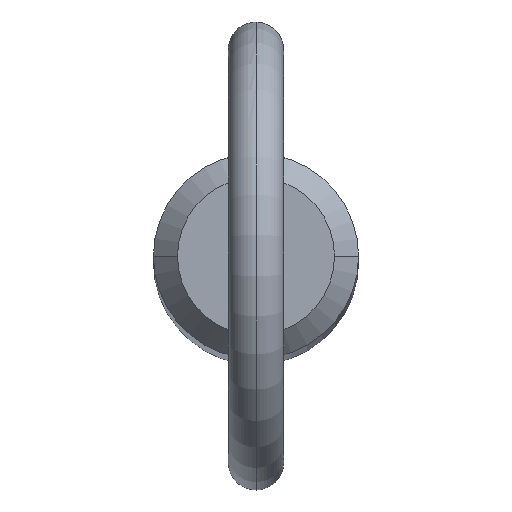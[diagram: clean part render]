
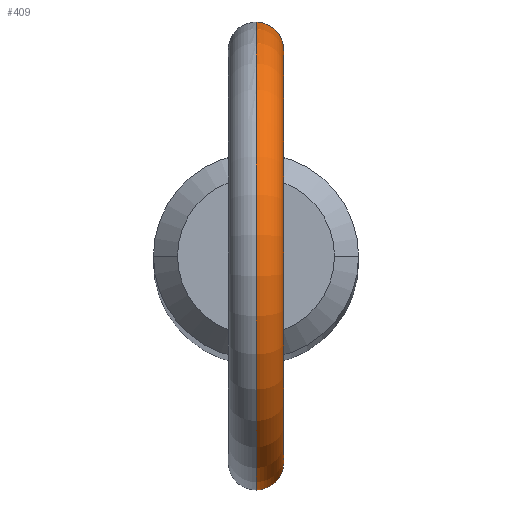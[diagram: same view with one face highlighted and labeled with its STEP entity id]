
A CAD part, top view. The second image highlights one B-rep face of the part: STEP entity #409.
In plain terms, the highlighted toroidal (fillet/blend) face has major radius 11.2 mm and minor radius 1.5 mm.
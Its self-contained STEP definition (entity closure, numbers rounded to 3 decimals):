
#4 = CARTESIAN_POINT ( 'NONE',  ( 1.26, -5.407, 167.043 ) ) ;
#15 = EDGE_CURVE ( 'NONE', #344, #298, #201, .T. ) ;
#22 = DIRECTION ( 'NONE',  ( 1., 0., 0. ) ) ;
#29 = ORIENTED_EDGE ( 'NONE', *, *, #278, .F. ) ;
#32 = CARTESIAN_POINT ( 'NONE',  ( 0.417, -5.535, 169.767 ) ) ;
#39 = CARTESIAN_POINT ( 'NONE',  ( 1.055, -5.449, 166.805 ) ) ;
#57 = CARTESIAN_POINT ( 'NONE',  ( 0.213, 5.55, 169.845 ) ) ;
#73 = AXIS2_PLACEMENT_3D ( 'NONE', #483, #142, #223 ) ;
#82 = CARTESIAN_POINT ( 'NONE',  ( 0.523, -5.526, 166.466 ) ) ;
#96 = CARTESIAN_POINT ( 'NONE',  ( 1.486, 5.348, 167.638 ) ) ;
#98 = DIRECTION ( 'NONE',  ( 0., 0., -1. ) ) ;
#101 = CARTESIAN_POINT ( 'NONE',  ( 0.422, 5.537, 169.778 ) ) ;
#114 = CARTESIAN_POINT ( 'NONE',  ( 0., -5.55, 169.845 ) ) ;
#115 = CARTESIAN_POINT ( 'NONE',  ( 1.44, -5.36, 168.486 ) ) ;
#122 = CARTESIAN_POINT ( 'NONE',  ( 1.363, -5.38, 167.234 ) ) ;
#124 = VERTEX_POINT ( 'NONE', #194 ) ;
#132 = CARTESIAN_POINT ( 'NONE',  ( 0.107, 5.55, 166.377 ) ) ;
#142 = DIRECTION ( 'NONE',  ( 1., 0., 0. ) ) ;
#162 = CARTESIAN_POINT ( 'NONE',  ( 0., 5.55, 166.377 ) ) ;
#166 = CARTESIAN_POINT ( 'NONE',  ( 0., 0., 177.8 ) ) ;
#178 = CARTESIAN_POINT ( 'NONE',  ( 0.694, 5.507, 169.614 ) ) ;
#184 = FACE_OUTER_BOUND ( 'NONE', #306, .T. ) ;
#194 = CARTESIAN_POINT ( 'NONE',  ( 0., 5.55, 169.845 ) ) ;
#197 = CARTESIAN_POINT ( 'NONE',  ( 0.107, -5.55, 166.377 ) ) ;
#200 = CARTESIAN_POINT ( 'NONE',  ( 0.807, -5.492, 166.606 ) ) ;
#201 = CIRCLE ( 'NONE', #73, 12.7 ) ;
#206 = CARTESIAN_POINT ( 'NONE',  ( 0., 5.55, 166.377 ) ) ;
#208 = CARTESIAN_POINT ( 'NONE',  ( 0.984, 5.464, 166.724 ) ) ;
#210 = EDGE_CURVE ( 'NONE', #124, #384, #245, .T. ) ;
#213 = CARTESIAN_POINT ( 'NONE',  ( 1.294, 5.398, 168.885 ) ) ;
#215 = CARTESIAN_POINT ( 'NONE',  ( 1.003, 5.459, 169.325 ) ) ;
#217 = CARTESIAN_POINT ( 'NONE',  ( 1.44, 5.36, 168.488 ) ) ;
#223 = DIRECTION ( 'NONE',  ( 0., 0., -1. ) ) ;
#245 = CIRCLE ( 'NONE', #486, 9.7 ) ;
#248 = CARTESIAN_POINT ( 'NONE',  ( 0., -5.55, 166.377 ) ) ;
#257 = CARTESIAN_POINT ( 'NONE',  ( 0.522, 5.526, 166.465 ) ) ;
#261 = CARTESIAN_POINT ( 'NONE',  ( 1.485, 5.348, 168.278 ) ) ;
#266 = CARTESIAN_POINT ( 'NONE',  ( 0., 0., 177.8 ) ) ;
#278 = EDGE_CURVE ( 'NONE', #384, #298, #380, .T. ) ;
#280 = CARTESIAN_POINT ( 'NONE',  ( 0.941, -5.471, 169.407 ) ) ;
#283 = CARTESIAN_POINT ( 'NONE',  ( 1.295, -5.397, 168.882 ) ) ;
#284 = ORIENTED_EDGE ( 'NONE', *, *, #210, .F. ) ;
#287 = CARTESIAN_POINT ( 'NONE',  ( 0., -5.55, 166.377 ) ) ;
#298 = VERTEX_POINT ( 'NONE', #287 ) ;
#299 = CARTESIAN_POINT ( 'NONE',  ( 1.19, 5.421, 166.962 ) ) ;
#304 = CARTESIAN_POINT ( 'NONE',  ( 1.352, 5.383, 167.235 ) ) ;
#306 = EDGE_LOOP ( 'NONE', ( #433, #337, #29, #284 ) ) ;
#317 = TOROIDAL_SURFACE ( 'NONE', #447, 11.2, 1.5 ) ;
#326 = CARTESIAN_POINT ( 'NONE',  ( 0.977, -5.464, 166.732 ) ) ;
#336 = CARTESIAN_POINT ( 'NONE',  ( 0.419, 5.535, 166.432 ) ) ;
#337 = ORIENTED_EDGE ( 'NONE', *, *, #15, .T. ) ;
#340 = CARTESIAN_POINT ( 'NONE',  ( 0.212, 5.547, 166.388 ) ) ;
#342 = CARTESIAN_POINT ( 'NONE',  ( 1.509, 5.341, 167.853 ) ) ;
#344 = VERTEX_POINT ( 'NONE', #162 ) ;
#347 = CARTESIAN_POINT ( 'NONE',  ( 0., 5.55, 169.845 ) ) ;
#377 = CARTESIAN_POINT ( 'NONE',  ( 0.421, -5.535, 166.432 ) ) ;
#380 = B_SPLINE_CURVE_WITH_KNOTS ( 'NONE', 3,
 ( #114, #485, #524, #32, #523, #446, #280, #454, #283, #115, #460, #491, #493, #412, #500, #122, #4, #39, #326, #200, #449, #82, #377, #418, #197, #248 ),
 .UNSPECIFIED., .F., .F.,
 ( 4, 2, 2, 2, 2, 2, 2, 2, 2, 2, 2, 2, 4 ),
 ( 0.005, 0.005, 0.005, 0.006, 0.006, 0.007, 0.007, 0.008, 0.008, 0.009, 0.009, 0.009, 0.01 ),
 .UNSPECIFIED. ) ;
#384 = VERTEX_POINT ( 'NONE', #495 ) ;
#392 = DIRECTION ( 'NONE',  ( 0., 0., -1. ) ) ;
#398 = CARTESIAN_POINT ( 'NONE',  ( 1.194, 5.422, 169.072 ) ) ;
#409 = ADVANCED_FACE ( 'NONE', ( #184 ), #317, .T. ) ;
#412 = CARTESIAN_POINT ( 'NONE',  ( 1.477, -5.35, 167.644 ) ) ;
#418 = CARTESIAN_POINT ( 'NONE',  ( 0.213, -5.547, 166.388 ) ) ;
#422 = DIRECTION ( 'NONE',  ( 1., 0., 0. ) ) ;
#426 = CARTESIAN_POINT ( 'NONE',  ( 0.81, 5.494, 166.595 ) ) ;
#433 = ORIENTED_EDGE ( 'NONE', *, *, #494, .F. ) ;
#446 = CARTESIAN_POINT ( 'NONE',  ( 0.786, -5.497, 169.557 ) ) ;
#447 = AXIS2_PLACEMENT_3D ( 'NONE', #166, #422, #392 ) ;
#449 = CARTESIAN_POINT ( 'NONE',  ( 0.716, -5.504, 166.552 ) ) ;
#454 = CARTESIAN_POINT ( 'NONE',  ( 1.194, -5.422, 169.071 ) ) ;
#460 = CARTESIAN_POINT ( 'NONE',  ( 1.486, -5.347, 168.274 ) ) ;
#472 = CARTESIAN_POINT ( 'NONE',  ( 1.393, 5.372, 167.333 ) ) ;
#477 = CARTESIAN_POINT ( 'NONE',  ( 0.933, 5.472, 169.404 ) ) ;
#483 = CARTESIAN_POINT ( 'NONE',  ( 0., 0., 177.8 ) ) ;
#485 = CARTESIAN_POINT ( 'NONE',  ( 0.106, -5.55, 169.845 ) ) ;
#486 = AXIS2_PLACEMENT_3D ( 'NONE', #266, #22, #98 ) ;
#491 = CARTESIAN_POINT ( 'NONE',  ( 1.503, -5.343, 167.959 ) ) ;
#493 = CARTESIAN_POINT ( 'NONE',  ( 1.5, -5.343, 167.854 ) ) ;
#494 = EDGE_CURVE ( 'NONE', #344, #124, #498, .T. ) ;
#495 = CARTESIAN_POINT ( 'NONE',  ( 0., -5.55, 169.845 ) ) ;
#498 = B_SPLINE_CURVE_WITH_KNOTS ( 'NONE', 3,
 ( #206, #132, #340, #336, #257, #426, #208, #299, #504, #304, #472, #96, #342, #261, #217, #213, #398, #215, #477, #511, #178, #101, #57, #347 ),
 .UNSPECIFIED., .F., .F.,
 ( 4, 2, 2, 2, 2, 2, 2, 2, 2, 2, 2, 4 ),
 ( 0.001, 0.001, 0.001, 0.002, 0.002, 0.002, 0.003, 0.004, 0.004, 0.005, 0.005, 0.006 ),
 .UNSPECIFIED. ) ;
#500 = CARTESIAN_POINT ( 'NONE',  ( 1.455, -5.356, 167.538 ) ) ;
#504 = CARTESIAN_POINT ( 'NONE',  ( 1.251, 5.407, 167.05 ) ) ;
#511 = CARTESIAN_POINT ( 'NONE',  ( 0.779, 5.496, 169.548 ) ) ;
#523 = CARTESIAN_POINT ( 'NONE',  ( 0.515, -5.527, 169.722 ) ) ;
#524 = CARTESIAN_POINT ( 'NONE',  ( 0.214, -5.547, 169.828 ) ) ;
